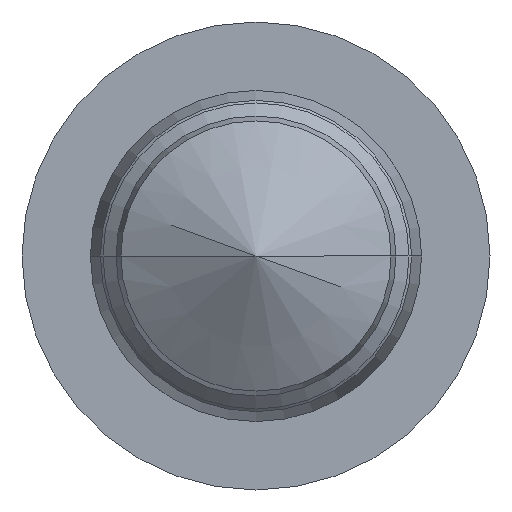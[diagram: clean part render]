
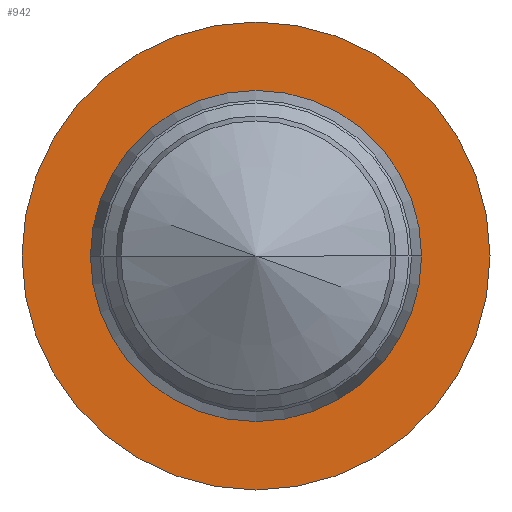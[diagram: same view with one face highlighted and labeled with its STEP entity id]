
A CAD part, front view. The second image highlights one B-rep face of the part: STEP entity #942.
In plain terms, the highlighted planar face has unit normal (0, -1, 0).
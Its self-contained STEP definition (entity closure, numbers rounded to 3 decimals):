
#780=CARTESIAN_POINT('',(-0.575,-0.03,0.0));
#781=VERTEX_POINT('',#780);
#789=CARTESIAN_POINT('',(0.575,-0.03,0.));
#790=VERTEX_POINT('',#789);
#797=CARTESIAN_POINT('',(0.0,-0.03,0.0));
#798=DIRECTION('',(0.0,-1.0,0.0));
#799=DIRECTION('',(-1.0,0.0,0.0));
#800=AXIS2_PLACEMENT_3D('',#797,#798,#799);
#801=CIRCLE('',#800,0.575);
#802=EDGE_CURVE('',#790,#781,#801,.T.);
#812=CARTESIAN_POINT('',(-0.813,-0.03,0.0));
#813=VERTEX_POINT('',#812);
#822=CARTESIAN_POINT('',(0.813,-0.03,0.));
#823=VERTEX_POINT('',#822);
#824=CARTESIAN_POINT('',(0.0,-0.03,0.0));
#825=DIRECTION('',(0.0,-1.0,0.0));
#826=DIRECTION('',(-1.0,0.0,0.0));
#827=AXIS2_PLACEMENT_3D('',#824,#825,#826);
#828=CIRCLE('',#827,0.813);
#829=EDGE_CURVE('',#823,#813,#828,.T.);
#913=CARTESIAN_POINT('',(0.0,-0.03,0.0));
#914=DIRECTION('',(0.0,-1.0,0.0));
#915=DIRECTION('',(-1.0,0.0,0.0));
#916=AXIS2_PLACEMENT_3D('',#913,#914,#915);
#917=CIRCLE('',#916,0.813);
#918=EDGE_CURVE('',#813,#823,#917,.T.);
#923=CARTESIAN_POINT('',(-0.694,-0.03,0.0));
#924=DIRECTION('',(0.0,-1.0,0.0));
#925=DIRECTION('',(0.0,0.0,-1.0));
#926=AXIS2_PLACEMENT_3D('',#923,#924,#925);
#927=PLANE('',#926);
#928=ORIENTED_EDGE('',*,*,#918,.T.);
#929=ORIENTED_EDGE('',*,*,#829,.T.);
#930=EDGE_LOOP('',(#928,#929));
#931=FACE_OUTER_BOUND('',#930,.T.);
#932=CARTESIAN_POINT('',(0.0,-0.03,0.0));
#933=DIRECTION('',(0.0,-1.0,0.0));
#934=DIRECTION('',(-1.0,0.0,0.0));
#935=AXIS2_PLACEMENT_3D('',#932,#933,#934);
#936=CIRCLE('',#935,0.575);
#937=EDGE_CURVE('',#781,#790,#936,.T.);
#938=ORIENTED_EDGE('',*,*,#937,.F.);
#939=ORIENTED_EDGE('',*,*,#802,.F.);
#940=EDGE_LOOP('',(#938,#939));
#941=FACE_BOUND('',#940,.T.);
#942=ADVANCED_FACE('',(#931,#941),#927,.T.);
